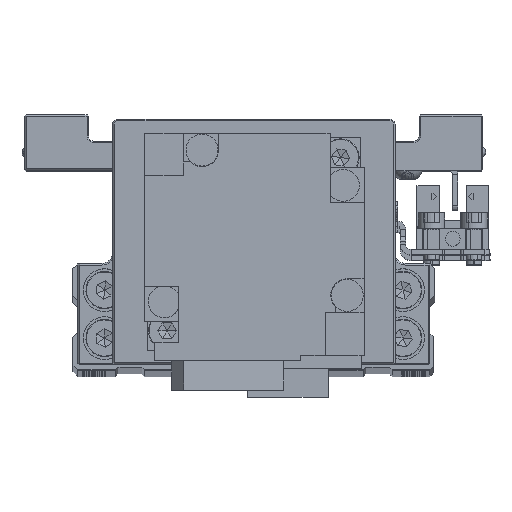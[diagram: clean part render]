
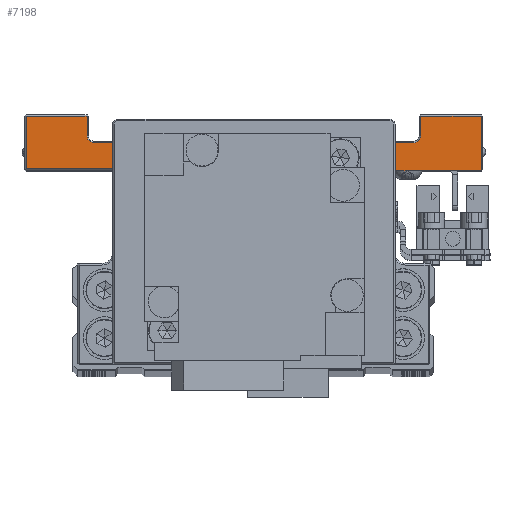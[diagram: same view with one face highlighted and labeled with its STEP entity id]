
A CAD part, top view. The second image highlights one B-rep face of the part: STEP entity #7198.
In plain terms, the highlighted planar face has unit normal (0, 0, 1) as drawn and (1, 0, 0) by its records, which use the part's own axes.
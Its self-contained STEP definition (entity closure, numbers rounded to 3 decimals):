
#92 = VECTOR ( 'NONE', #3037, 1000. ) ;
#1083 = FACE_OUTER_BOUND ( 'NONE', #6033, .T. ) ;
#1534 = ORIENTED_EDGE ( 'NONE', *, *, #24803, .T. ) ;
#1740 = VECTOR ( 'NONE', #14054, 1000. ) ;
#1868 = CARTESIAN_POINT ( 'NONE',  ( 45., 14., -30. ) ) ;
#2491 = CARTESIAN_POINT ( 'NONE',  ( 45., 17.7, -20. ) ) ;
#2986 = CARTESIAN_POINT ( 'NONE',  ( 45., 7.8, 20. ) ) ;
#3037 = DIRECTION ( 'NONE',  ( 0., 0., 1. ) ) ;
#4227 = CARTESIAN_POINT ( 'NONE',  ( 45., 7.5, 31.3 ) ) ;
#4310 = LINE ( 'NONE', #15858, #36216 ) ;
#4989 = ORIENTED_EDGE ( 'NONE', *, *, #13407, .T. ) ;
#5087 = CARTESIAN_POINT ( 'NONE',  ( 45., 12.7, -30. ) ) ;
#5368 = CARTESIAN_POINT ( 'NONE',  ( 45., 17.7, -31.3 ) ) ;
#5659 = CIRCLE ( 'NONE', #26819, 1.3 ) ;
#5671 = CARTESIAN_POINT ( 'NONE',  ( 45., 7.8, 19.7 ) ) ;
#5752 = EDGE_CURVE ( 'NONE', #20847, #6167, #31936, .T. ) ;
#5864 = DIRECTION ( 'NONE',  ( 0., -1., 0. ) ) ;
#5911 = DIRECTION ( 'NONE',  ( 0., -1., 0. ) ) ;
#6015 = CARTESIAN_POINT ( 'NONE',  ( 45., 7.5, 43. ) ) ;
#6033 = EDGE_LOOP ( 'NONE', ( #12804, #33209, #18494, #17309, #20728, #4989, #7286, #35539, #35291, #34530, #17527, #1534, #29619, #30771 ) ) ;
#6167 = VERTEX_POINT ( 'NONE', #34521 ) ;
#6533 = DIRECTION ( 'NONE',  ( 0., 1., 0. ) ) ;
#6837 = LINE ( 'NONE', #18395, #20876 ) ;
#7198 = ADVANCED_FACE ( 'NONE', ( #1083 ), #12645, .F. ) ;
#7286 = ORIENTED_EDGE ( 'NONE', *, *, #36421, .T. ) ;
#7678 = DIRECTION ( 'NONE',  ( 0., 0., 1. ) ) ;
#7787 = LINE ( 'NONE', #19338, #12255 ) ;
#8060 = VECTOR ( 'NONE', #35534, 1000. ) ;
#8258 = VERTEX_POINT ( 'NONE', #12481 ) ;
#8639 = VERTEX_POINT ( 'NONE', #17941 ) ;
#9242 = VERTEX_POINT ( 'NONE', #35808 ) ;
#9803 = DIRECTION ( 'NONE',  ( 0., 0., 1. ) ) ;
#10630 = VERTEX_POINT ( 'NONE', #27496 ) ;
#12083 = VERTEX_POINT ( 'NONE', #5368 ) ;
#12097 = EDGE_CURVE ( 'NONE', #17246, #8639, #28434, .T. ) ;
#12255 = VECTOR ( 'NONE', #30858, 1000. ) ;
#12278 = CARTESIAN_POINT ( 'NONE',  ( 45., -8.2, -19.7 ) ) ;
#12461 = LINE ( 'NONE', #24016, #8060 ) ;
#12481 = CARTESIAN_POINT ( 'NONE',  ( 45., -8.2, 19.7 ) ) ;
#12645 = PLANE ( 'NONE',  #13030 ) ;
#12804 = ORIENTED_EDGE ( 'NONE', *, *, #22378, .T. ) ;
#13030 = AXIS2_PLACEMENT_3D ( 'NONE', #24192, #35706, #9803 ) ;
#13407 = EDGE_CURVE ( 'NONE', #24079, #24724, #5659, .T. ) ;
#13426 = DIRECTION ( 'NONE',  ( -1., 0., 0. ) ) ;
#13695 = VERTEX_POINT ( 'NONE', #12278 ) ;
#14033 = CARTESIAN_POINT ( 'NONE',  ( 45., 17.7, 31.3 ) ) ;
#14054 = DIRECTION ( 'NONE',  ( 0., 0., 1. ) ) ;
#14538 = DIRECTION ( 'NONE',  ( 0., 0., -1. ) ) ;
#15769 = DIRECTION ( 'NONE',  ( 0., 1., 0. ) ) ;
#15858 = CARTESIAN_POINT ( 'NONE',  ( 45., 7.5, -31.3 ) ) ;
#16427 = VECTOR ( 'NONE', #14538, 1000. ) ;
#17246 = VERTEX_POINT ( 'NONE', #14033 ) ;
#17309 = ORIENTED_EDGE ( 'NONE', *, *, #23061, .T. ) ;
#17448 = LINE ( 'NONE', #28979, #92 ) ;
#17527 = ORIENTED_EDGE ( 'NONE', *, *, #18683, .T. ) ;
#17563 = DIRECTION ( 'NONE',  ( 0., 0., -1. ) ) ;
#17783 = EDGE_CURVE ( 'NONE', #19053, #8258, #20248, .T. ) ;
#17941 = CARTESIAN_POINT ( 'NONE',  ( 45., 17.7, 42.7 ) ) ;
#18022 = EDGE_CURVE ( 'NONE', #12083, #24079, #4310, .T. ) ;
#18395 = CARTESIAN_POINT ( 'NONE',  ( 45., -8.2, -20. ) ) ;
#18494 = ORIENTED_EDGE ( 'NONE', *, *, #28426, .T. ) ;
#18519 = CIRCLE ( 'NONE', #23345, 1.3 ) ;
#18683 = EDGE_CURVE ( 'NONE', #8639, #10630, #20303, .T. ) ;
#18976 = CARTESIAN_POINT ( 'NONE',  ( 45., 14., 31.3 ) ) ;
#19053 = VERTEX_POINT ( 'NONE', #5671 ) ;
#19338 = CARTESIAN_POINT ( 'NONE',  ( 45., 7.5, -19.7 ) ) ;
#20248 = LINE ( 'NONE', #31776, #28969 ) ;
#20303 = LINE ( 'NONE', #31827, #28047 ) ;
#20728 = ORIENTED_EDGE ( 'NONE', *, *, #18022, .T. ) ;
#20847 = VERTEX_POINT ( 'NONE', #29181 ) ;
#20876 = VECTOR ( 'NONE', #29925, 1000. ) ;
#20929 = LINE ( 'NONE', #32455, #21987 ) ;
#21987 = VECTOR ( 'NONE', #6533, 1000. ) ;
#22063 = CARTESIAN_POINT ( 'NONE',  ( 45., 14., 30. ) ) ;
#22378 = EDGE_CURVE ( 'NONE', #13695, #20847, #7787, .T. ) ;
#23061 = EDGE_CURVE ( 'NONE', #9242, #12083, #12461, .T. ) ;
#23345 = AXIS2_PLACEMENT_3D ( 'NONE', #22063, #33592, #7678 ) ;
#23452 = CARTESIAN_POINT ( 'NONE',  ( 45., 12.7, 30. ) ) ;
#24016 = CARTESIAN_POINT ( 'NONE',  ( 45., 17.7, -20. ) ) ;
#24079 = VERTEX_POINT ( 'NONE', #24459 ) ;
#24192 = CARTESIAN_POINT ( 'NONE',  ( 45., 7.5, -20. ) ) ;
#24459 = CARTESIAN_POINT ( 'NONE',  ( 45., 14., -31.3 ) ) ;
#24724 = VERTEX_POINT ( 'NONE', #5087 ) ;
#24803 = EDGE_CURVE ( 'NONE', #10630, #19053, #28922, .T. ) ;
#24859 = VERTEX_POINT ( 'NONE', #23452 ) ;
#24970 = DIRECTION ( 'NONE',  ( 0., 0., 1. ) ) ;
#26529 = VECTOR ( 'NONE', #17563, 1000. ) ;
#26819 = AXIS2_PLACEMENT_3D ( 'NONE', #1868, #13426, #24970 ) ;
#27395 = DIRECTION ( 'NONE',  ( 0., -1., 0. ) ) ;
#27496 = CARTESIAN_POINT ( 'NONE',  ( 45., 7.8, 42.7 ) ) ;
#28047 = VECTOR ( 'NONE', #5911, 1000. ) ;
#28426 = EDGE_CURVE ( 'NONE', #6167, #9242, #20929, .T. ) ;
#28434 = LINE ( 'NONE', #2491, #1740 ) ;
#28540 = VERTEX_POINT ( 'NONE', #18976 ) ;
#28922 = LINE ( 'NONE', #2986, #16427 ) ;
#28969 = VECTOR ( 'NONE', #5864, 1000. ) ;
#28979 = CARTESIAN_POINT ( 'NONE',  ( 45., 12.7, 30. ) ) ;
#29181 = CARTESIAN_POINT ( 'NONE',  ( 45., 7.5, -19.7 ) ) ;
#29619 = ORIENTED_EDGE ( 'NONE', *, *, #17783, .T. ) ;
#29925 = DIRECTION ( 'NONE',  ( 0., 0., -1. ) ) ;
#30154 = LINE ( 'NONE', #4227, #30481 ) ;
#30366 = EDGE_CURVE ( 'NONE', #28540, #17246, #30154, .T. ) ;
#30481 = VECTOR ( 'NONE', #15769, 1000. ) ;
#30771 = ORIENTED_EDGE ( 'NONE', *, *, #30799, .T. ) ;
#30799 = EDGE_CURVE ( 'NONE', #8258, #13695, #6837, .T. ) ;
#30858 = DIRECTION ( 'NONE',  ( 0., 1., 0. ) ) ;
#31776 = CARTESIAN_POINT ( 'NONE',  ( 45., 7.5, 19.7 ) ) ;
#31827 = CARTESIAN_POINT ( 'NONE',  ( 45., 7.5, 42.7 ) ) ;
#31885 = EDGE_CURVE ( 'NONE', #24859, #28540, #18519, .T. ) ;
#31936 = LINE ( 'NONE', #6015, #26529 ) ;
#32455 = CARTESIAN_POINT ( 'NONE',  ( 45., 7.5, -42.7 ) ) ;
#33209 = ORIENTED_EDGE ( 'NONE', *, *, #5752, .T. ) ;
#33592 = DIRECTION ( 'NONE',  ( -1., 0., 0. ) ) ;
#34521 = CARTESIAN_POINT ( 'NONE',  ( 45., 7.5, -42.7 ) ) ;
#34530 = ORIENTED_EDGE ( 'NONE', *, *, #12097, .T. ) ;
#35291 = ORIENTED_EDGE ( 'NONE', *, *, #30366, .T. ) ;
#35534 = DIRECTION ( 'NONE',  ( 0., 0., 1. ) ) ;
#35539 = ORIENTED_EDGE ( 'NONE', *, *, #31885, .T. ) ;
#35706 = DIRECTION ( 'NONE',  ( -1., 0., 0. ) ) ;
#35808 = CARTESIAN_POINT ( 'NONE',  ( 45., 17.7, -42.7 ) ) ;
#36216 = VECTOR ( 'NONE', #27395, 1000. ) ;
#36421 = EDGE_CURVE ( 'NONE', #24724, #24859, #17448, .T. ) ;
